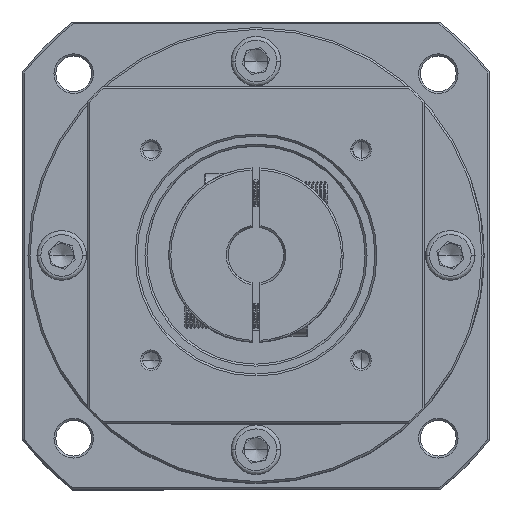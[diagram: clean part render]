
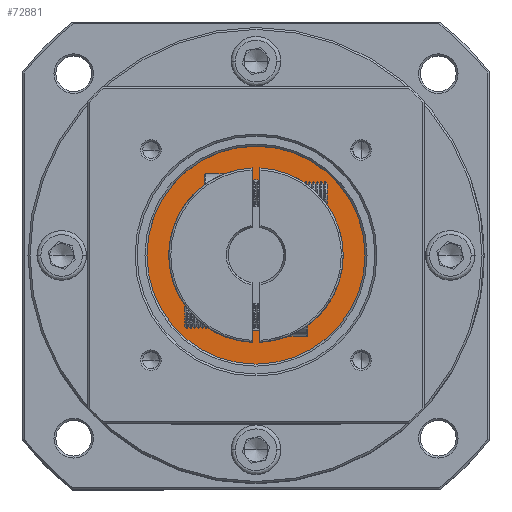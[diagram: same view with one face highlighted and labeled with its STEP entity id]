
A CAD part, top view. The second image highlights one B-rep face of the part: STEP entity #72881.
In plain terms, the highlighted planar face has unit normal (0, 0, 1).
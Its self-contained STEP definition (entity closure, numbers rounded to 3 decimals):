
#648 = DIRECTION ( 'NONE',  ( 0., 0., 1. ) ) ;
#5593 = PLANE ( 'NONE',  #50815 ) ;
#6373 = CARTESIAN_POINT ( 'NONE',  ( -94.928, 38.218, 38.446 ) ) ;
#8349 = VERTEX_POINT ( 'NONE', #69408 ) ;
#9895 = VERTEX_POINT ( 'NONE', #70623 ) ;
#12758 = FACE_OUTER_BOUND ( 'NONE', #24899, .T. ) ;
#15145 = DIRECTION ( 'NONE',  ( 1., 0., 0. ) ) ;
#18148 = VERTEX_POINT ( 'NONE', #70242 ) ;
#19272 = AXIS2_PLACEMENT_3D ( 'NONE', #53164, #648, #61979 ) ;
#24899 = EDGE_LOOP ( 'NONE', ( #107249, #86902 ) ) ;
#29549 = AXIS2_PLACEMENT_3D ( 'NONE', #35565, #96888, #44360 ) ;
#35565 = CARTESIAN_POINT ( 'NONE',  ( -94.928, 38.218, 38.446 ) ) ;
#38464 = ORIENTED_EDGE ( 'NONE', *, *, #54234, .T. ) ;
#39097 = EDGE_LOOP ( 'NONE', ( #38464, #90749 ) ) ;
#40066 = CIRCLE ( 'NONE', #96503, 19. ) ;
#42060 = CIRCLE ( 'NONE', #61599, 19. ) ;
#42948 = CARTESIAN_POINT ( 'NONE',  ( -94.928, 38.218, 38.446 ) ) ;
#43145 = CARTESIAN_POINT ( 'NONE',  ( -113.928, 38.218, 38.446 ) ) ;
#44031 = DIRECTION ( 'NONE',  ( 0., 0., -1. ) ) ;
#44360 = DIRECTION ( 'NONE',  ( -1., 0., 0. ) ) ;
#50002 = VERTEX_POINT ( 'NONE', #43145 ) ;
#50815 = AXIS2_PLACEMENT_3D ( 'NONE', #6373, #67611, #15145 ) ;
#51763 = DIRECTION ( 'NONE',  ( -1., 0., 0. ) ) ;
#53164 = CARTESIAN_POINT ( 'NONE',  ( -94.928, 38.218, 38.446 ) ) ;
#54234 = EDGE_CURVE ( 'NONE', #50002, #8349, #40066, .T. ) ;
#56444 = CIRCLE ( 'NONE', #19272, 27.5 ) ;
#61599 = AXIS2_PLACEMENT_3D ( 'NONE', #96539, #44031, #105286 ) ;
#61979 = DIRECTION ( 'NONE',  ( -1., 0., 0. ) ) ;
#67611 = DIRECTION ( 'NONE',  ( 0., 0., 1. ) ) ;
#69408 = CARTESIAN_POINT ( 'NONE',  ( -75.928, 38.218, 38.446 ) ) ;
#70242 = CARTESIAN_POINT ( 'NONE',  ( -67.428, 38.218, 38.446 ) ) ;
#70623 = CARTESIAN_POINT ( 'NONE',  ( -122.428, 38.218, 38.446 ) ) ;
#72881 = ADVANCED_FACE ( 'NONE', ( #12758, #105917 ), #5593, .T. ) ;
#74826 = CIRCLE ( 'NONE', #29549, 27.5 ) ;
#82131 = EDGE_CURVE ( 'NONE', #8349, #50002, #42060, .T. ) ;
#83758 = EDGE_CURVE ( 'NONE', #9895, #18148, #74826, .T. ) ;
#86902 = ORIENTED_EDGE ( 'NONE', *, *, #93449, .T. ) ;
#90749 = ORIENTED_EDGE ( 'NONE', *, *, #82131, .T. ) ;
#93449 = EDGE_CURVE ( 'NONE', #18148, #9895, #56444, .T. ) ;
#96503 = AXIS2_PLACEMENT_3D ( 'NONE', #42948, #104191, #51763 ) ;
#96539 = CARTESIAN_POINT ( 'NONE',  ( -94.928, 38.218, 38.446 ) ) ;
#96888 = DIRECTION ( 'NONE',  ( 0., 0., 1. ) ) ;
#104191 = DIRECTION ( 'NONE',  ( 0., 0., -1. ) ) ;
#105286 = DIRECTION ( 'NONE',  ( -1., 0., 0. ) ) ;
#105917 = FACE_BOUND ( 'NONE', #39097, .T. ) ;
#107249 = ORIENTED_EDGE ( 'NONE', *, *, #83758, .T. ) ;
